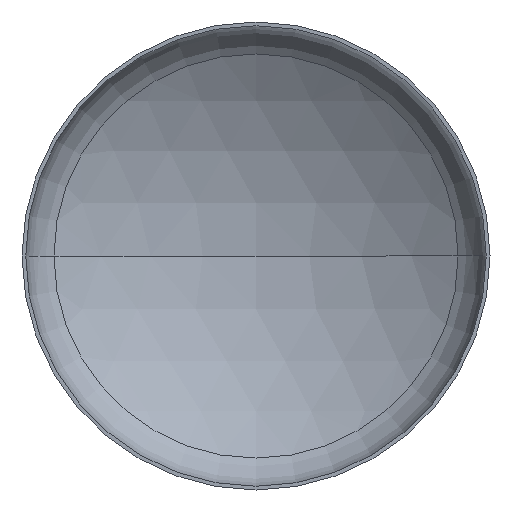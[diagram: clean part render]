
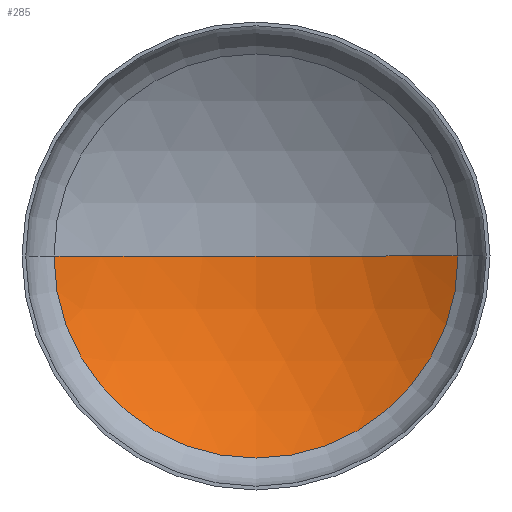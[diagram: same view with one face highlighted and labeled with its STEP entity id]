
A CAD part, front view. The second image highlights one B-rep face of the part: STEP entity #285.
In plain terms, the highlighted spherical face has radius 392 mm.
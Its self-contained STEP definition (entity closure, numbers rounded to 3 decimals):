
#35 = AXIS2_PLACEMENT_3D ( 'NONE', #411, #260, #40 ) ;
#40 = DIRECTION ( 'NONE',  ( -1., 0., 0. ) ) ;
#44 = CARTESIAN_POINT ( 'NONE',  ( 0., 124., 0. ) ) ;
#56 = DIRECTION ( 'NONE',  ( 0., 0., 1. ) ) ;
#76 = ORIENTED_EDGE ( 'NONE', *, *, #86, .F. ) ;
#86 = EDGE_CURVE ( 'NONE', #301, #394, #226, .T. ) ;
#87 = DIRECTION ( 'NONE',  ( 1., 0., 0. ) ) ;
#91 = VERTEX_POINT ( 'NONE', #44 ) ;
#93 = CARTESIAN_POINT ( 'NONE',  ( 0., -268., 0. ) ) ;
#123 = CARTESIAN_POINT ( 'NONE',  ( 0., -268., 0. ) ) ;
#142 = ORIENTED_EDGE ( 'NONE', *, *, #393, .F. ) ;
#150 = DIRECTION ( 'NONE',  ( -1., 0., 0. ) ) ;
#164 = AXIS2_PLACEMENT_3D ( 'NONE', #93, #56, #382 ) ;
#178 = DIRECTION ( 'NONE',  ( 0., 1., 0. ) ) ;
#191 = AXIS2_PLACEMENT_3D ( 'NONE', #123, #245, #87 ) ;
#206 = CARTESIAN_POINT ( 'NONE',  ( 0., 59.186, 0. ) ) ;
#226 = CIRCLE ( 'NONE', #366, 215.902 ) ;
#245 = DIRECTION ( 'NONE',  ( 0., 0., 1. ) ) ;
#250 = SPHERICAL_SURFACE ( 'NONE', #164, 392. ) ;
#260 = DIRECTION ( 'NONE',  ( 0., 0., -1. ) ) ;
#285 = ADVANCED_FACE ( 'NONE', ( #378 ), #250, .F. ) ;
#301 = VERTEX_POINT ( 'NONE', #381 ) ;
#347 = CIRCLE ( 'NONE', #35, 392. ) ;
#349 = EDGE_CURVE ( 'NONE', #301, #91, #398, .T. ) ;
#358 = CARTESIAN_POINT ( 'NONE',  ( -215.902, 59.186, 0. ) ) ;
#360 = EDGE_LOOP ( 'NONE', ( #76, #390, #142 ) ) ;
#366 = AXIS2_PLACEMENT_3D ( 'NONE', #206, #178, #150 ) ;
#378 = FACE_OUTER_BOUND ( 'NONE', #360, .T. ) ;
#381 = CARTESIAN_POINT ( 'NONE',  ( 215.902, 59.186, 0. ) ) ;
#382 = DIRECTION ( 'NONE',  ( -1., 0., 0. ) ) ;
#390 = ORIENTED_EDGE ( 'NONE', *, *, #349, .T. ) ;
#393 = EDGE_CURVE ( 'NONE', #394, #91, #347, .T. ) ;
#394 = VERTEX_POINT ( 'NONE', #358 ) ;
#398 = CIRCLE ( 'NONE', #191, 392. ) ;
#411 = CARTESIAN_POINT ( 'NONE',  ( 0., -268., 0. ) ) ;
